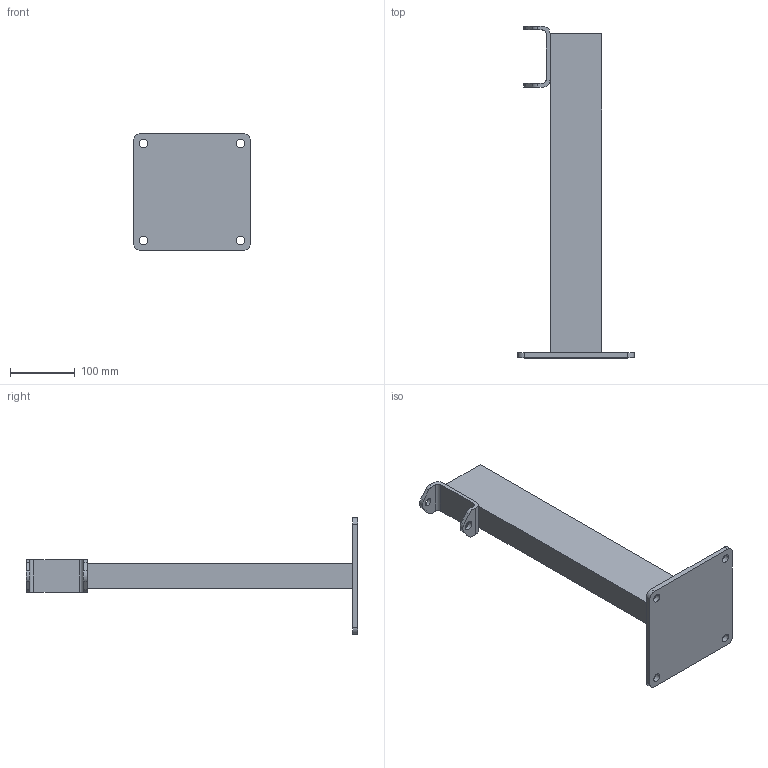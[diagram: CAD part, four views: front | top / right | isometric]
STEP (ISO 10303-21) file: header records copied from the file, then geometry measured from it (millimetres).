
FILE_DESCRIPTION((''),'2;1');
FILE_NAME('PTX500','2018-10-29T',('Tomas Bellgran'),(''),'CREO PARAMETRIC BY PTC INC, 2016130','CREO PARAMETRIC BY PTC INC, 2016130','');
FILE_SCHEMA(('AUTOMOTIVE_DESIGN { 1 0 10303 214 1 1 1 1 }'));
Length unit declared in the file: millimetre
Products named in the file (1): PTX500
Bounding box: 180 x 512 x 180 mm (x, y, z)
Volume: 1869563.3 mm3; surface area: 199250.9 mm2
Topology: 1 solids, 1 shells, 50 faces, 137 edges, 90 vertices
Faces by surface type: cylinder 26, plane 24
Entity records: 1763 total; most frequent: DIRECTION 289, CARTESIAN_POINT 279, ORIENTED_EDGE 274, EDGE_CURVE 137, AXIS2_PLACEMENT_3D 102, VERTEX_POINT 90, VECTOR 85, LINE 85
